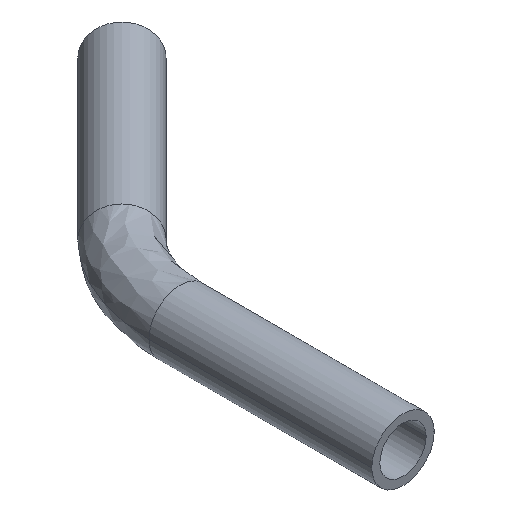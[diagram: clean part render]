
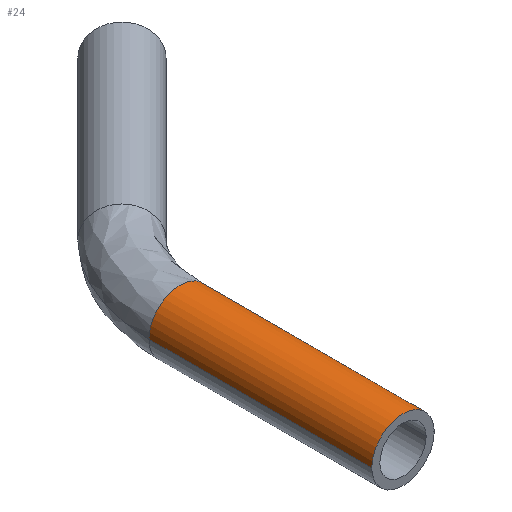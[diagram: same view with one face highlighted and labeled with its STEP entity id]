
A CAD part, isometric view. The second image highlights one B-rep face of the part: STEP entity #24.
In plain terms, the highlighted cylindrical face has radius 6.35 mm (diameter 12.7 mm), a partial arc.
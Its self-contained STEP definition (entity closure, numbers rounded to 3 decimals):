
#6 = DIRECTION ( 'NONE',  ( 1., 0., 0. ) ) ;
#11 = CARTESIAN_POINT ( 'NONE',  ( -6.35, 45.353, 0. ) ) ;
#24 = ADVANCED_FACE ( 'NONE', ( #174 ), #100, .T. ) ;
#32 = VERTEX_POINT ( 'NONE', #71 ) ;
#51 = DIRECTION ( 'NONE',  ( 0., -1., 0. ) ) ;
#71 = CARTESIAN_POINT ( 'NONE',  ( -6.35, 0., 0. ) ) ;
#72 = EDGE_CURVE ( 'NONE', #96, #32, #368, .T. ) ;
#76 = ORIENTED_EDGE ( 'NONE', *, *, #72, .T. ) ;
#85 = CARTESIAN_POINT ( 'NONE',  ( 6.35, 45.353, 0. ) ) ;
#87 = VECTOR ( 'NONE', #51, 1000. ) ;
#96 = VERTEX_POINT ( 'NONE', #11 ) ;
#100 = CYLINDRICAL_SURFACE ( 'NONE', #179, 6.35 ) ;
#114 = VECTOR ( 'NONE', #258, 1000. ) ;
#116 = VERTEX_POINT ( 'NONE', #153 ) ;
#120 = CARTESIAN_POINT ( 'NONE',  ( 0., 0., 0. ) ) ;
#124 = CARTESIAN_POINT ( 'NONE',  ( -6.35, 45.353, 0. ) ) ;
#128 = LINE ( 'NONE', #85, #114 ) ;
#140 = EDGE_CURVE ( 'NONE', #96, #116, #246, .T. ) ;
#151 = DIRECTION ( 'NONE',  ( 0., 1., 0. ) ) ;
#153 = CARTESIAN_POINT ( 'NONE',  ( 6.35, 45.353, 0. ) ) ;
#155 = DIRECTION ( 'NONE',  ( -1., 0., 0. ) ) ;
#174 = FACE_OUTER_BOUND ( 'NONE', #388, .T. ) ;
#176 = DIRECTION ( 'NONE',  ( 0., -1., 0. ) ) ;
#179 = AXIS2_PLACEMENT_3D ( 'NONE', #350, #176, #6 ) ;
#228 = CARTESIAN_POINT ( 'NONE',  ( 0., 45.353, 0. ) ) ;
#246 = CIRCLE ( 'NONE', #397, 6.35 ) ;
#247 = ORIENTED_EDGE ( 'NONE', *, *, #328, .F. ) ;
#249 = AXIS2_PLACEMENT_3D ( 'NONE', #120, #452, #370 ) ;
#258 = DIRECTION ( 'NONE',  ( 0., -1., 0. ) ) ;
#276 = VERTEX_POINT ( 'NONE', #301 ) ;
#301 = CARTESIAN_POINT ( 'NONE',  ( 6.35, 0., 0. ) ) ;
#305 = ORIENTED_EDGE ( 'NONE', *, *, #140, .F. ) ;
#328 = EDGE_CURVE ( 'NONE', #116, #276, #128, .T. ) ;
#332 = CIRCLE ( 'NONE', #249, 6.35 ) ;
#350 = CARTESIAN_POINT ( 'NONE',  ( 0., 45.353, 0. ) ) ;
#368 = LINE ( 'NONE', #124, #87 ) ;
#370 = DIRECTION ( 'NONE',  ( 1., 0., 0. ) ) ;
#381 = EDGE_CURVE ( 'NONE', #32, #276, #332, .T. ) ;
#388 = EDGE_LOOP ( 'NONE', ( #305, #76, #466, #247 ) ) ;
#397 = AXIS2_PLACEMENT_3D ( 'NONE', #228, #151, #155 ) ;
#452 = DIRECTION ( 'NONE',  ( 0., 1., 0. ) ) ;
#466 = ORIENTED_EDGE ( 'NONE', *, *, #381, .T. ) ;
